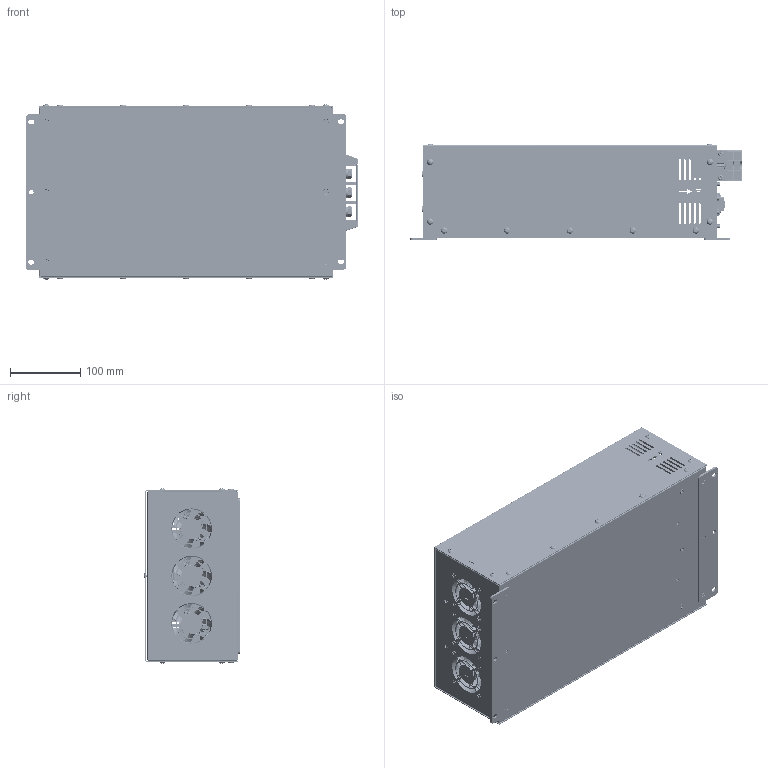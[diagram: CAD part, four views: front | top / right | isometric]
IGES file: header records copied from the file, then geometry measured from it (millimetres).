
Global section: file name: VX3COM_OLED_2026.06.10_단순화_1; native system: Autodesk Inventor 2026; preprocessor: unknown; author: Administrator; date: 20260611.093601; units: millimetre
Bounding box: 473.7 x 137.84 x 250.09 mm (x, y, z)
Volume: 738545.6 mm3; surface area: 973512 mm2
Topology: 14 solids, 14 shells, 9053 faces, 24758 edges, 16274 vertices
Faces by surface type: bspline 9053
